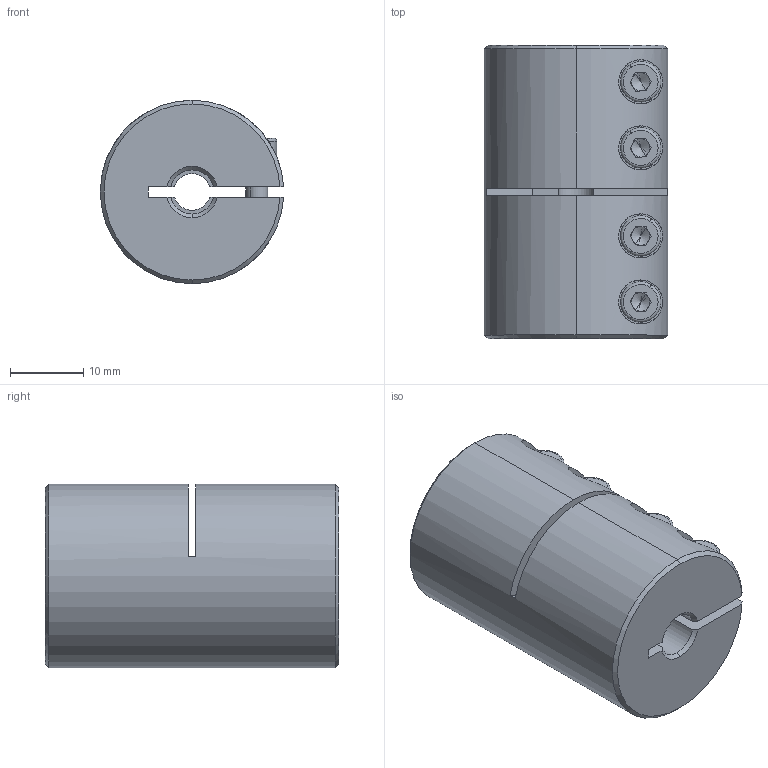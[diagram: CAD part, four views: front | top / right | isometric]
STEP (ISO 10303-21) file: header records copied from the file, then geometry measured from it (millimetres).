
FILE_DESCRIPTION (( 'STEP AP214' ), '1' );
FILE_NAME ('LL-B-D25L40-5-6½¨Ä£.STEP', '2022-07-21T05:02:15', ( '' ), ( '' ), 'SwSTEP 2.0', 'SolidWorks 2022', '' );
FILE_SCHEMA (( 'AUTOMOTIVE_DESIGN' ));
Length unit declared in the file: millimetre
Products named in the file (1): LL-B-D25L40-5-6膘耀
Bounding box: 24.98 x 40 x 25 mm (x, y, z)
Volume: 17365.9 mm3; surface area: 7075.5 mm2
Topology: 1 solids, 1 shells, 178 faces, 455 edges, 287 vertices
Faces by surface type: plane 85, cylinder 65, cone 20, torus 8
Entity records: 5838 total; most frequent: CARTESIAN_POINT 1437, DIRECTION 946, ORIENTED_EDGE 894, EDGE_CURVE 447, AXIS2_PLACEMENT_3D 364, VERTEX_POINT 287, VECTOR 218, LINE 218
